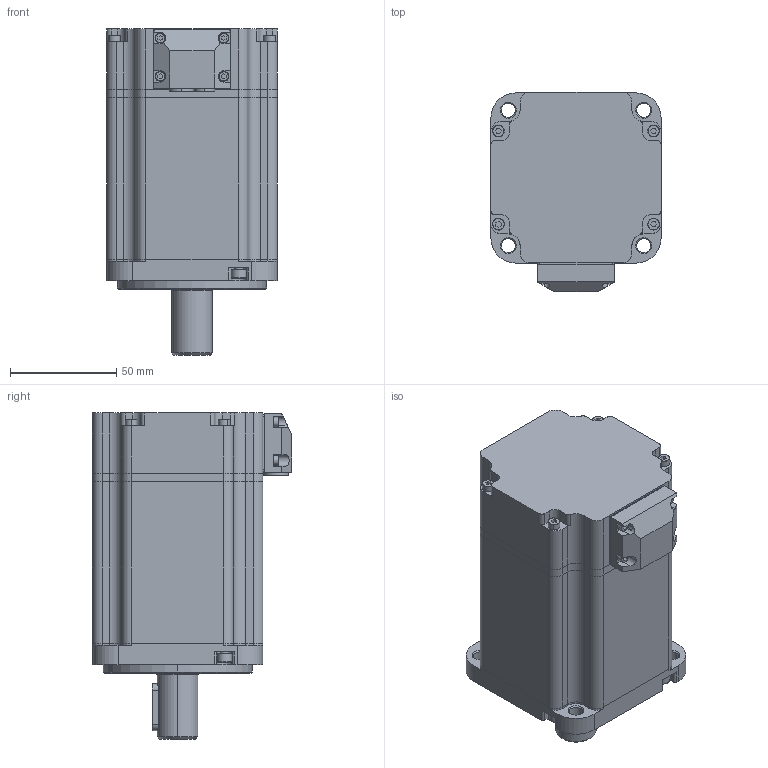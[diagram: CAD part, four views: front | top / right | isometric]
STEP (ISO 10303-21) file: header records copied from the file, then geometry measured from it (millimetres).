
FILE_DESCRIPTION (( 'STEP AP203' ), '1' );
FILE_NAME ('淕儂蚾饜.STEP', '2020-10-29T05:11:51', ( 'K' ), ( 'K' ), 'SwSTEP 2.0', 'SolidWorks 2018', '' );
FILE_SCHEMA (( 'CONFIG_CONTROL_DESIGN' ));
Length unit declared in the file: millimetre
Products named in the file (1): 淕儂蚾饜
Bounding box: 80 x 93.5 x 153.2 mm (x, y, z)
Volume: 237454.3 mm3; surface area: 137281.3 mm2
Topology: 27 solids, 27 shells, 1097 faces, 2768 edges, 1769 vertices
Faces by surface type: cylinder 488, plane 453, cone 98, torus 58
Entity records: 33439 total; most frequent: DIRECTION 6130, CARTESIAN_POINT 5963, ORIENTED_EDGE 5468, EDGE_CURVE 2734, AXIS2_PLACEMENT_3D 2332, VERTEX_POINT 1769, VECTOR 1466, LINE 1466
